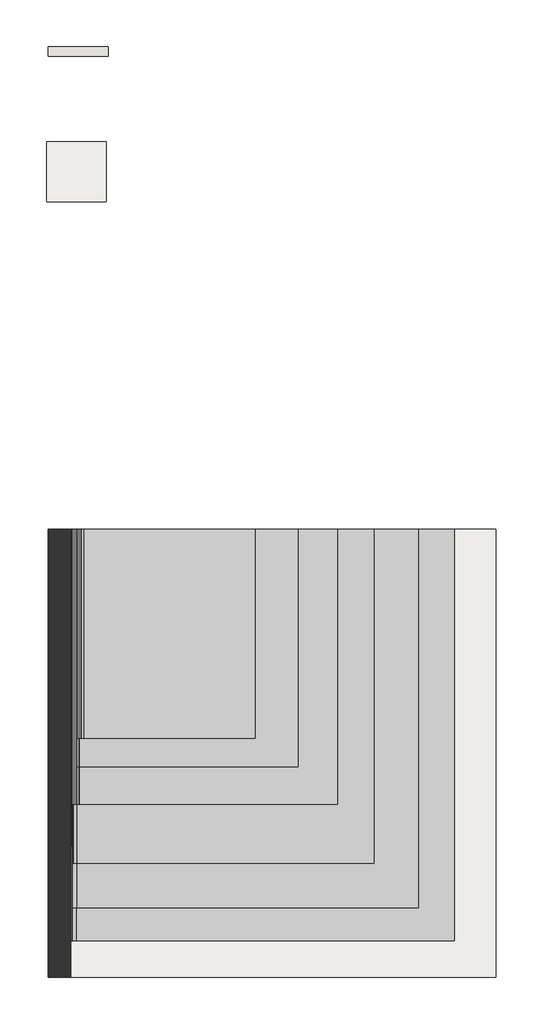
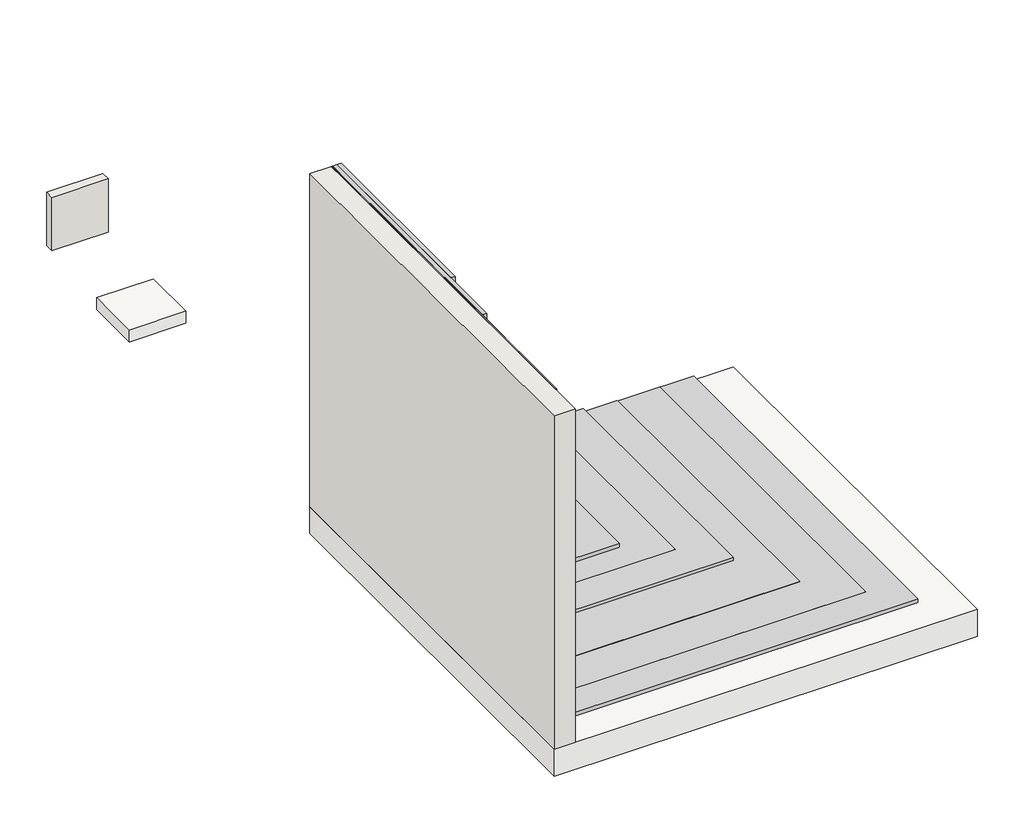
# One storey: 2 slabs, 2 walls, 1 proxy.
"""IFC4 building model written with IfcOpenShell, lengths in millimetres."""

from ifc_helpers import new_model, si_unit, frame, origin, place, context, project, spatial, polyline, outline, extrude, transform, mapped, element, save
from components import generic_models_d6b91a3f

model = new_model("IFC4")

# Units and contexts
model_context = context("Model", 3, world=origin())
ifc_project = project(units=[si_unit("LENGTHUNIT", "METRE", prefix="MILLI")], contexts=[model_context])

# Site, building, storey
site = spatial("IfcSite", under=ifc_project)
building = spatial("IfcBuilding", under=site)
storey = spatial("IfcBuildingStorey", under=building, Name="ARQ Térreo", Elevation=-2.523798)

# Proxy
placement = place(None, origin())
generic_models_shape = generic_models_d6b91a3f(model_context)
element("IfcBuildingElementProxy", 1, Name="IMPER:IMPER:433934 : IMPER:IMPER:433934", ObjectType="IMPER:IMPER:433934 : IMPER:IMPER:433934", at=placement, inside=storey, context=model_context, shape_type="MappedRepresentation", body=[
    mapped(generic_models_shape, transform((0.0, 0.0, 0.0), x_axis=(1.0, 0.0, 0.0), y_axis=(0.0, 1.0, 0.0), z_axis=(0.0, 0.0, 1.0))),
])

# Slabs
element("IfcSlab", 2, ObjectType="IMPH_T4PP", at=placement, inside=storey, context=model_context, shape_type="SweptSolid", body=[
    extrude(outline(polyline([(-514.5300247, 2740.9296337), (-114.5300247, 2740.9296337), (-114.5300247, 2340.9296337), (-514.5300247, 2340.9296337), (-514.5300247, 2740.9296337)])), frame((0.0, 0.0, -91.523798), z_axis=(0.0, 0.0, 1.0), x_axis=(1.0, 0.0, 0.0)), (0.0, 0.0, 1.0), 89.0),
])
element("IfcSlab", 3, ObjectType="Piso:LAJE CONCRETO", at=placement, inside=storey, context=model_context, shape_type="SweptSolid", body=[
    extrude(outline(polyline([(-501.9704105, 145.8700195), (2498.0295895, 145.8700195), (2498.0295895, -2854.1299805), (-501.9704105, -2854.1299805), (-501.9704105, 145.8700195)])), frame((0.0, 0.0, -202.523798), z_axis=(0.0, 0.0, 1.0), x_axis=(1.0, 0.0, 0.0)), (0.0, 0.0, 1.0), 200.0),
])

# Walls
element("IfcWall", 4, ObjectType="Parede básica:Parede Concreto", at=placement, inside=storey, context=model_context, shape_type="SweptSolid", body=[
    extrude(outline(polyline([(-501.9704105, -2854.1299805), (-501.9704105, 145.8700195), (-351.9704105, 145.8700195), (-351.9704105, -2854.1299805), (-501.9704105, -2854.1299805)])), frame((0.0, 0.0, -2.523798), z_axis=(0.0, 0.0, 1.0), x_axis=(1.0, 0.0, 0.0)), (0.0, 0.0, 1.0), 2500.0),
])
element("IfcWall", 5, ObjectType="IMPV_VITKOTE ELASTIC", at=placement, inside=storey, context=model_context, shape_type="SweptSolid", body=[
    extrude(outline(polyline([(-101.9704105, 3312.8700195), (-501.9704105, 3312.8700195), (-501.9704105, 3378.8700195), (-101.9704105, 3378.8700195), (-101.9704105, 3312.8700195)])), frame((0.0, 0.0, -2.523798), z_axis=(0.0, 0.0, 1.0), x_axis=(1.0, 0.0, 0.0)), (0.0, 0.0, 1.0), 400.0),
])

save(model, "model.ifc")
